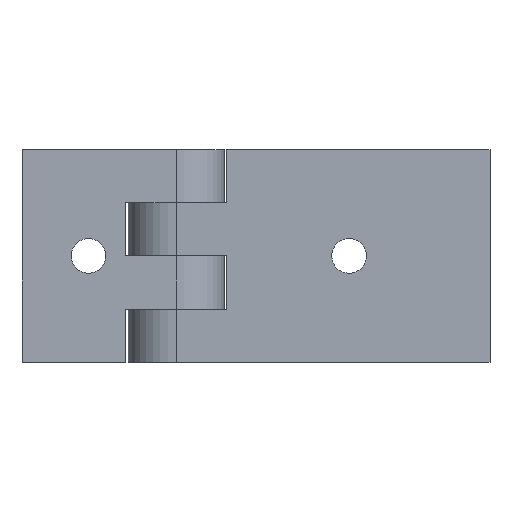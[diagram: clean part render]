
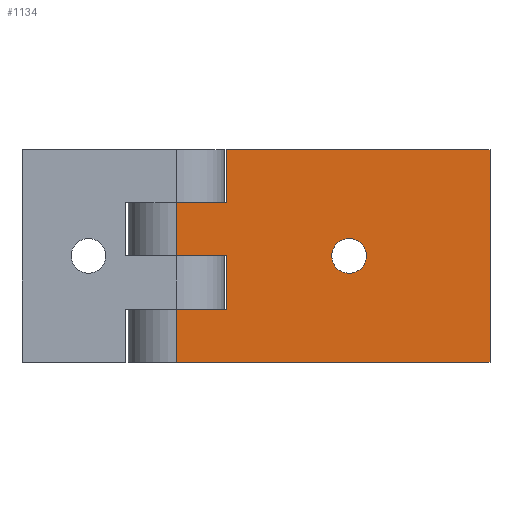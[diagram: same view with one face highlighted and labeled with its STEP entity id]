
A CAD part, top view. The second image highlights one B-rep face of the part: STEP entity #1134.
In plain terms, the highlighted planar face has unit normal (0, 0, 1).
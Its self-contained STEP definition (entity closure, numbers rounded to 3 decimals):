
#790=DIRECTION('',(1.,0.,0.));
#791=VECTOR('',#790,49.5);
#792=CARTESIAN_POINT('',(-59.,-20.,0.));
#793=LINE('',#792,#791);
#798=DIRECTION('',(-1.,0.,0.));
#799=VECTOR('',#798,9.5);
#800=CARTESIAN_POINT('',(0.,10.,0.));
#801=LINE('',#800,#799);
#802=DIRECTION('',(0.,-1.,0.));
#803=VECTOR('',#802,10.);
#804=CARTESIAN_POINT('',(-9.5,10.,0.));
#805=LINE('',#804,#803);
#806=DIRECTION('',(-1.,0.,0.));
#807=VECTOR('',#806,9.5);
#808=CARTESIAN_POINT('',(0.,0.,0.));
#809=LINE('',#808,#807);
#810=DIRECTION('',(-1.,0.,0.));
#811=VECTOR('',#810,9.5);
#812=CARTESIAN_POINT('',(0.,-10.,0.));
#813=LINE('',#812,#811);
#814=DIRECTION('',(0.,1.,0.));
#815=VECTOR('',#814,10.);
#816=CARTESIAN_POINT('',(-9.5,-20.,0.));
#817=LINE('',#816,#815);
#818=DIRECTION('',(0.,1.,0.));
#819=VECTOR('',#818,40.);
#820=CARTESIAN_POINT('',(-59.,-20.,0.));
#821=LINE('',#820,#819);
#822=CARTESIAN_POINT('',(-32.5,0.,0.));
#823=DIRECTION('',(0.,0.,-1.));
#824=DIRECTION('',(1.,0.,0.));
#825=AXIS2_PLACEMENT_3D('',#822,#823,#824);
#827=CARTESIAN_POINT('',(-32.5,0.,0.));
#828=DIRECTION('',(0.,0.,-1.));
#829=DIRECTION('',(-1.,0.,0.));
#830=AXIS2_PLACEMENT_3D('',#827,#828,#829);
#847=DIRECTION('',(0.,1.,0.));
#848=VECTOR('',#847,10.);
#849=CARTESIAN_POINT('',(0.,10.,0.));
#850=LINE('',#849,#848);
#861=DIRECTION('',(0.,1.,0.));
#862=VECTOR('',#861,10.);
#863=CARTESIAN_POINT('',(0.,-10.,0.));
#864=LINE('',#863,#862);
#865=DIRECTION('',(1.,0.,0.));
#866=VECTOR('',#865,59.);
#867=CARTESIAN_POINT('',(-59.,20.,0.));
#868=LINE('',#867,#866);
#1005=CARTESIAN_POINT('',(-59.,-20.,0.));
#1007=VERTEX_POINT('',#1005);
#1008=CARTESIAN_POINT('',(-59.,20.,0.));
#1009=CARTESIAN_POINT('',(0.,20.,0.));
#1010=VERTEX_POINT('',#1008);
#1011=VERTEX_POINT('',#1009);
#1020=CARTESIAN_POINT('',(-9.5,-20.,0.));
#1022=VERTEX_POINT('',#1020);
#1024=CARTESIAN_POINT('',(0.,10.,0.));
#1025=CARTESIAN_POINT('',(-9.5,10.,0.));
#1026=VERTEX_POINT('',#1024);
#1027=VERTEX_POINT('',#1025);
#1028=CARTESIAN_POINT('',(-9.5,0.,0.));
#1029=VERTEX_POINT('',#1028);
#1030=CARTESIAN_POINT('',(0.,0.,0.));
#1031=VERTEX_POINT('',#1030);
#1032=CARTESIAN_POINT('',(0.,-10.,0.));
#1033=CARTESIAN_POINT('',(-9.5,-10.,0.));
#1034=VERTEX_POINT('',#1032);
#1035=VERTEX_POINT('',#1033);
#1060=CARTESIAN_POINT('',(-29.25,0.,0.));
#1061=CARTESIAN_POINT('',(-35.75,0.,0.));
#1062=VERTEX_POINT('',#1060);
#1063=VERTEX_POINT('',#1061);
#1103=CARTESIAN_POINT('',(-59.,-20.,0.));
#1104=DIRECTION('',(0.,0.,1.));
#1105=DIRECTION('',(1.,0.,0.));
#1106=AXIS2_PLACEMENT_3D('',#1103,#1104,#1105);
#1107=PLANE('',#1106);
#1109=ORIENTED_EDGE('',*,*,#1108,.T.);
#1111=ORIENTED_EDGE('',*,*,#1110,.T.);
#1113=ORIENTED_EDGE('',*,*,#1112,.F.);
#1115=ORIENTED_EDGE('',*,*,#1114,.F.);
#1117=ORIENTED_EDGE('',*,*,#1116,.T.);
#1118=ORIENTED_EDGE('',*,*,#1094,.F.);
#1119=ORIENTED_EDGE('',*,*,#1083,.F.);
#1121=ORIENTED_EDGE('',*,*,#1120,.T.);
#1123=ORIENTED_EDGE('',*,*,#1122,.T.);
#1125=ORIENTED_EDGE('',*,*,#1124,.F.);
#1126=EDGE_LOOP('',(#1109,#1111,#1113,#1115,#1117,#1118,#1119,#1121,#1123,
#1125));
#1127=FACE_OUTER_BOUND('',#1126,.F.);
#1129=ORIENTED_EDGE('',*,*,#1128,.F.);
#1131=ORIENTED_EDGE('',*,*,#1130,.F.);
#1132=EDGE_LOOP('',(#1129,#1131));
#1133=FACE_BOUND('',#1132,.F.);
#1134=ADVANCED_FACE('',(#1127,#1133),#1107,.T.);
#826=CIRCLE('',#825,3.25);
#831=CIRCLE('',#830,3.25);
#1083=EDGE_CURVE('',#1007,#1022,#793,.T.);
#1094=EDGE_CURVE('',#1022,#1035,#817,.T.);
#1108=EDGE_CURVE('',#1026,#1027,#801,.T.);
#1110=EDGE_CURVE('',#1027,#1029,#805,.T.);
#1112=EDGE_CURVE('',#1031,#1029,#809,.T.);
#1114=EDGE_CURVE('',#1034,#1031,#864,.T.);
#1116=EDGE_CURVE('',#1034,#1035,#813,.T.);
#1120=EDGE_CURVE('',#1007,#1010,#821,.T.);
#1122=EDGE_CURVE('',#1010,#1011,#868,.T.);
#1124=EDGE_CURVE('',#1026,#1011,#850,.T.);
#1128=EDGE_CURVE('',#1062,#1063,#826,.T.);
#1130=EDGE_CURVE('',#1063,#1062,#831,.T.);
